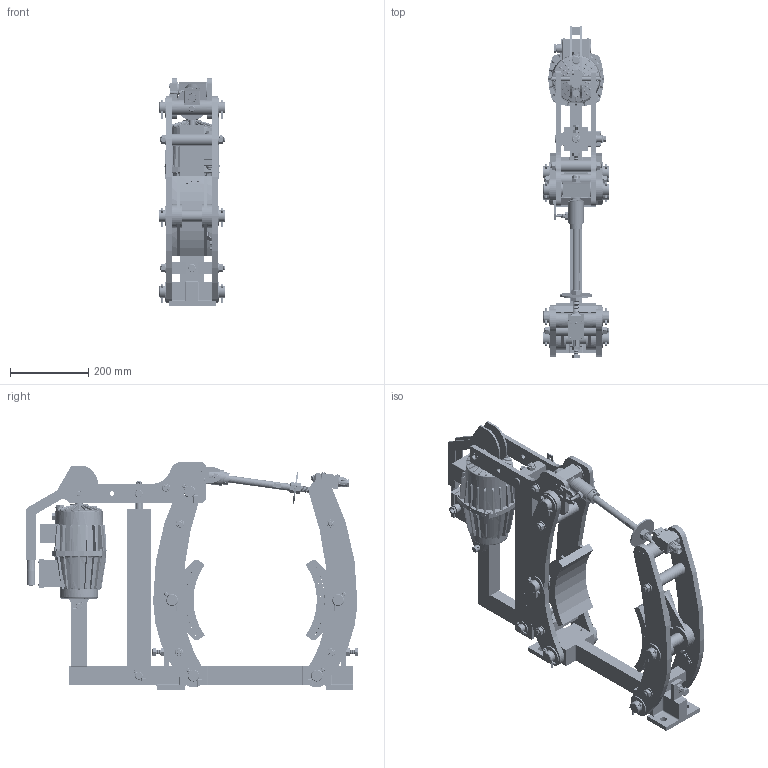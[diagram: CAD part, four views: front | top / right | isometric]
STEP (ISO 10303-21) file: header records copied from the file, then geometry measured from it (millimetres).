
FILE_DESCRIPTION((''),'2;1');
FILE_NAME('4459_314_551_E00001','2018-01-30T',('VORO'),(''),'CREO PARAMETRIC BY PTC INC, 2017170','CREO PARAMETRIC BY PTC INC, 2017170','');
FILE_SCHEMA(('CONFIG_CONTROL_DESIGN'));
Products named in the file (1): 4459_314_551_E00001
Bounding box: 169.08 x 847.27 x 583 mm (x, y, z)
Surface area: 2049071.4 mm2 (no closed solid volume)
Topology: 0 solids, 3401 shells, 4080 faces, 25750 edges, 24314 vertices
Faces by surface type: plane 1640, cylinder 1388, cone 815, torus 215, bspline 18, sphere 4
Entity records: 434434 total; most frequent: CARTESIAN_POINT 134706, PRESENTATION_STYLE_ASSIGNMENT 33165, STYLED_ITEM 29085, DIRECTION 28312, ORIENTED_EDGE 27082, CURVE_STYLE 25684, EDGE_CURVE 25684, VERTEX_POINT 24295
